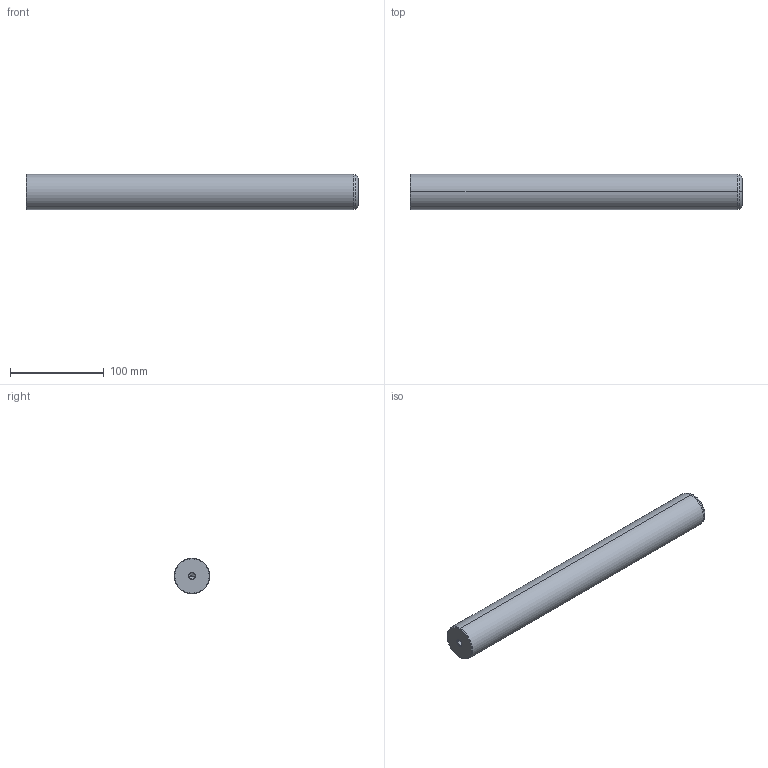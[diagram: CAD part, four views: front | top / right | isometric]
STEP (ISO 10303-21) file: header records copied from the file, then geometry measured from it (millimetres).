
FILE_DESCRIPTION(('CATIA V5 STEP Exchange'),'2;1');
FILE_NAME('C:\Users\Utente\Desktop\IO LAVORO\3D X SITO CF\X SITO\720\720-38x355.stp','2021-01-01T12:02:21+00:00',('none'),('none'),'CATIA Version 5 Release 20 GA (IN-10)','CATIA V5 STEP AP203','none');
FILE_SCHEMA(('CONFIG_CONTROL_DESIGN'));
Length unit declared in the file: millimetre
Products named in the file (1): 720-38x355
Bounding box: 355 x 38 x 38 mm (x, y, z)
Volume: 400271.2 mm3; surface area: 45334.8 mm2
Topology: 1 solids, 1 shells, 22 faces, 62 edges, 40 vertices
Faces by surface type: cone 12, cylinder 6, plane 2, torus 2
Entity records: 806 total; most frequent: CARTESIAN_POINT 229, ORIENTED_EDGE 116, DIRECTION 93, EDGE_CURVE 58, AXIS2_PLACEMENT_3D 54, VERTEX_POINT 40, CIRCLE 31, EDGE_LOOP 24
